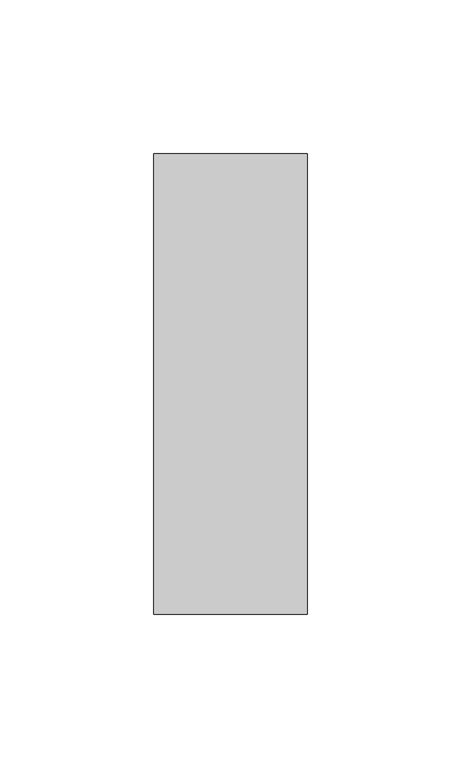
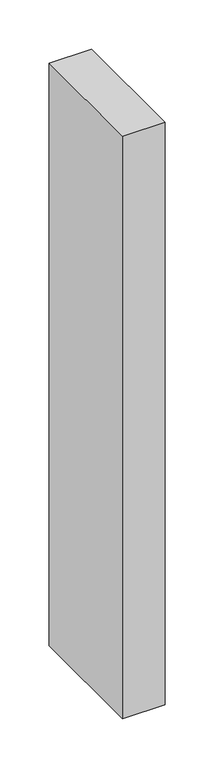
"""IFC4 building model written with IfcOpenShell, lengths in millimetres: member geometry, 矩形竖梃 : 教学楼 – 矩形竖梃 – 50x150mm."""

from ifc_helpers import new_model, si_unit, frame, origin, place, context, project, spatial, polyline, outline, extrude, source, transform, mapped, element, save


def member_68d13e3f(model_context):
    return source(origin(), model_context, "Body", "SweptSolid", [
        extrude(outline(polyline([(25.0, 75.0), (25.0, -75.0), (-25.0, -75.0), (-25.0, 75.0), (25.0, 75.0)])), frame((0.0, 0.0, -725.0000003), z_axis=(0.0, 0.0, 1.0), x_axis=(1.0, 0.0, 0.0)), (0.0, 0.0, 1.0), 725.0000003),
    ])


if __name__ == "__main__":
    model = new_model("IFC4")
    model_context = context("Model", 3, world=origin())
    ifc_project = project(units=[si_unit("LENGTHUNIT", "METRE", prefix="MILLI")], contexts=[model_context])
    site = spatial("IfcSite", under=ifc_project)
    building = spatial("IfcBuilding", under=site)
    placement = place(None, origin())
    member_shape = member_68d13e3f(model_context)
    element("IfcMember", 1, ObjectType="矩形竖梃 : 教学楼 – 矩形竖梃 – 50x150mm", at=placement, inside=building, context=model_context, shape_type="MappedRepresentation", body=[
        mapped(member_shape, transform((0.0, 0.0, 0.0), x_axis=(1.0, 0.0, 0.0), y_axis=(0.0, 1.0, 0.0), z_axis=(0.0, 0.0, 1.0))),
    ])
    save(model, "model.ifc")
